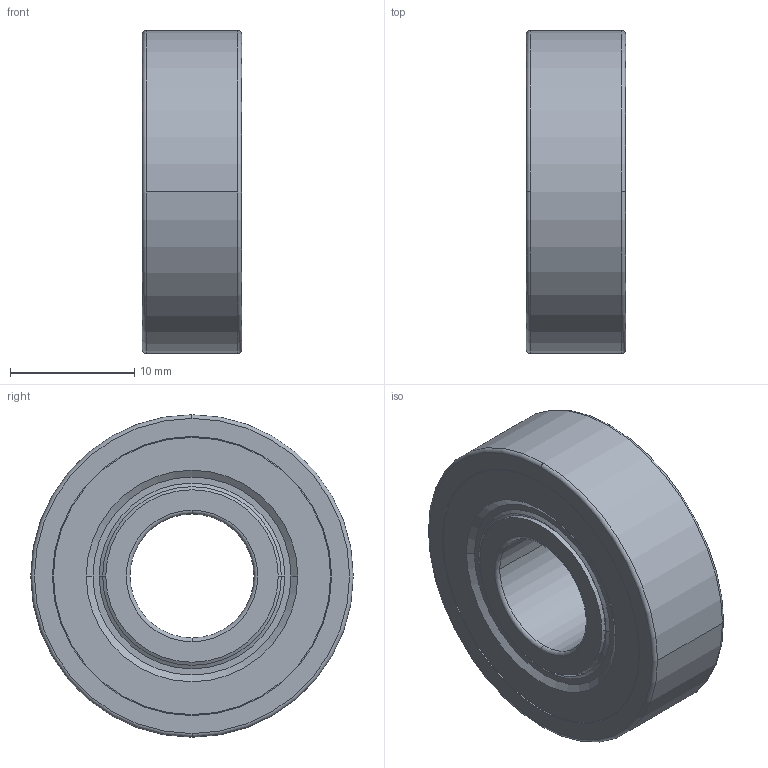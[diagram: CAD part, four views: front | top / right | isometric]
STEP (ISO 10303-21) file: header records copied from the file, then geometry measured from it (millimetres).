
FILE_DESCRIPTION(('STEP AP214'),'1');
FILE_NAME('snr_6000ee_0.stp','2024-08-01T07:26:52',('TraceParts'),('TraceParts S.A.'),'Spatial InterOp 3D',' ',' ');
FILE_SCHEMA(('AUTOMOTIVE_DESIGN { 1 0 10303 214 1 1 1 1 }'));
Length unit declared in the file: millimetre
Products named in the file (1): snr_6000ee_0_1
Bounding box: 8 x 26 x 26 mm (x, y, z)
Volume: 3344.5 mm3; surface area: 4660.3 mm2
Topology: 5 solids, 5 shells, 96 faces, 218 edges, 138 vertices
Faces by surface type: torus 28, cone 28, cylinder 24, plane 16
Entity records: 2823 total; most frequent: DIRECTION 586, CARTESIAN_POINT 457, ORIENTED_EDGE 436, AXIS2_PLACEMENT_3D 267, EDGE_CURVE 218, CIRCLE 166, VERTEX_POINT 138, EDGE_LOOP 112
